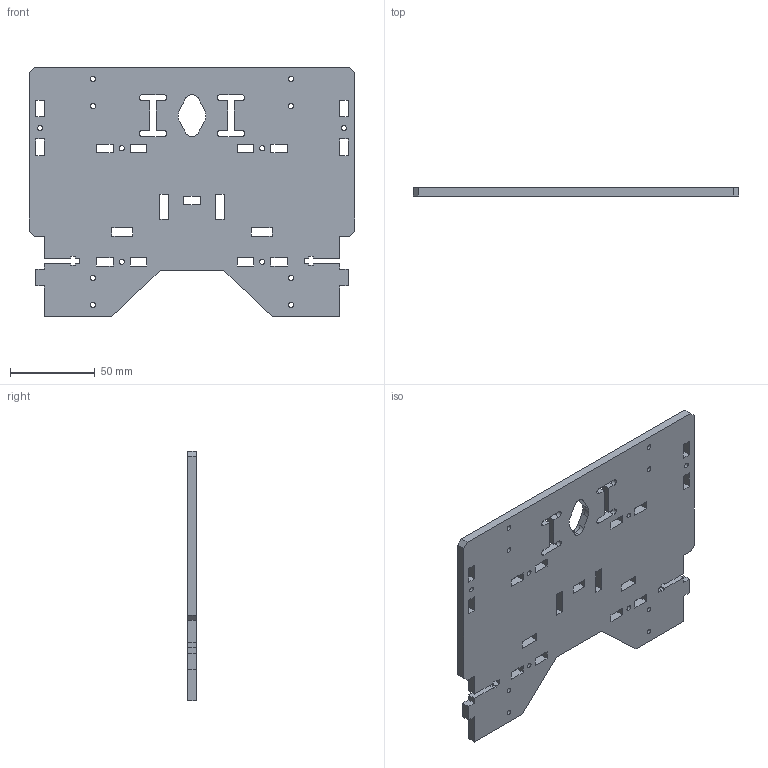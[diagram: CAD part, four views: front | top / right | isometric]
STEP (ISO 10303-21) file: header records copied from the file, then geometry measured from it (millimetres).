
FILE_DESCRIPTION(/* description */ (''),/* implementation_level */ '2;1');
FILE_NAME(/* name */ 'SO6475~1',/* time_stamp */ '2019-04-01T21:21:55-03:00',/* author */ (''),/* organization */ (''),/* preprocessor_version */ 'ST-DEVELOPER v16.5',/* originating_system */ '',/* authorisation */ '');
FILE_SCHEMA (('AUTOMOTIVE_DESIGN'));
Length unit declared in the file: millimetre
Products named in the file (1): Document
Bounding box: 192.44 x 5 x 147.42 mm (x, y, z)
Volume: 120033 mm3; surface area: 56678.6 mm2
Topology: 1 solids, 1 shells, 199 faces, 580 edges, 383 vertices
Faces by surface type: plane 135, bspline 64
Entity records: 6891 total; most frequent: CARTESIAN_POINT 3296, ORIENTED_EDGE 1160, EDGE_CURVE 580, VERTEX_POINT 383, B_SPLINE_CURVE_WITH_KNOTS 336, EDGE_LOOP 267, ADVANCED_FACE 199, FACE_OUTER_BOUND 199
